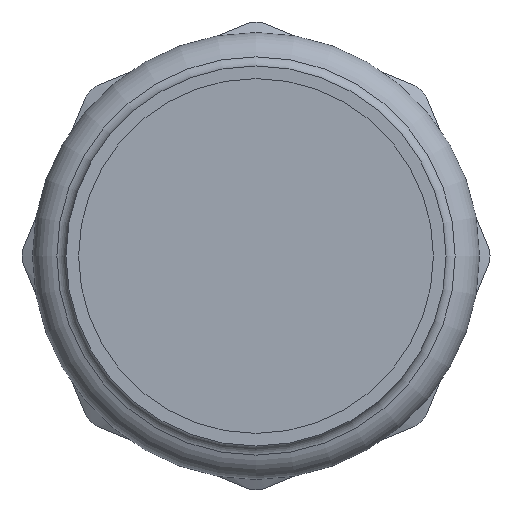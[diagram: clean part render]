
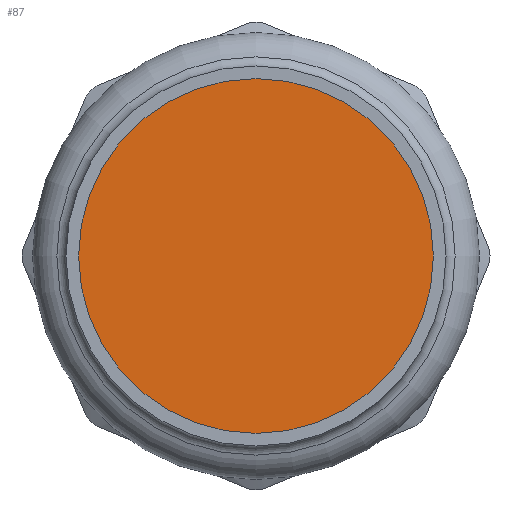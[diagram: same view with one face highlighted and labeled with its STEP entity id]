
A CAD part, front view. The second image highlights one B-rep face of the part: STEP entity #87.
In plain terms, the highlighted planar face has unit normal (0, -1, 0).
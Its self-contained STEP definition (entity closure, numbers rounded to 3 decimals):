
#87=ADVANCED_FACE('',(#360),#362,.T.);
#360=FACE_BOUND('',#361,.T.);
#361=EDGE_LOOP('',(#500));
#362=PLANE('',#363);
#363=AXIS2_PLACEMENT_3D('',#364,#365,#366);
#364=CARTESIAN_POINT('',(0.,8.708,0.));
#365=DIRECTION('',(0.,-1.,0.));
#366=DIRECTION('',(0.,0.,-1.));
#500=ORIENTED_EDGE('',*,*,#567,.T.);
#567=EDGE_CURVE('',#684,#684,#685,.F.);
#684=VERTEX_POINT('',#2144);
#685=CIRCLE('',#2145,21.15);
#2144=CARTESIAN_POINT('',(0.,8.708,21.15));
#2145=AXIS2_PLACEMENT_3D('',#2146,#2147,#2148);
#2146=CARTESIAN_POINT('',(0.,8.708,0.));
#2147=DIRECTION('',(0.,1.,0.));
#2148=DIRECTION('',(0.,0.,1.));
